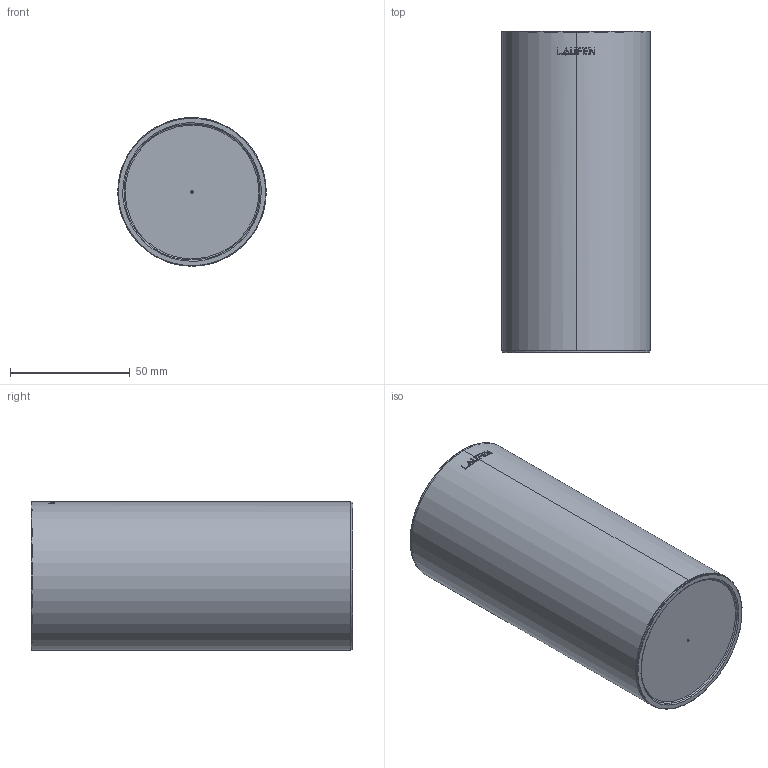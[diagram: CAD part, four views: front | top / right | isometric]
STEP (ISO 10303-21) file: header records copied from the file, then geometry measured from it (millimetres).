
FILE_DESCRIPTION (( 'STEP AP203' ), '1' );
FILE_NAME ('3-82150-0001D3S.STEP', '2023-10-18T03:46:00', ( '' ), ( '' ), 'SwSTEP 2.0', 'SolidWorks 2016', '' );
FILE_SCHEMA (( 'CONFIG_CONTROL_DESIGN' ));
Length unit declared in the file: millimetre
Products named in the file (1): 3-82150-0001D3S
Bounding box: 62 x 134 x 62 mm (x, y, z)
Volume: 66535.2 mm3; surface area: 105544.4 mm2
Topology: 3 solids, 3 shells, 1008 faces, 2515 edges, 1544 vertices
Faces by surface type: plane 313, bspline 266, cylinder 216, torus 127, sphere 60, cone 26
Entity records: 39989 total; most frequent: CARTESIAN_POINT 17856, ORIENTED_EDGE 4966, DIRECTION 4059, EDGE_CURVE 2483, VERTEX_POINT 1542, AXIS2_PLACEMENT_3D 1527, EDGE_LOOP 1071, FACE_OUTER_BOUND 1008
